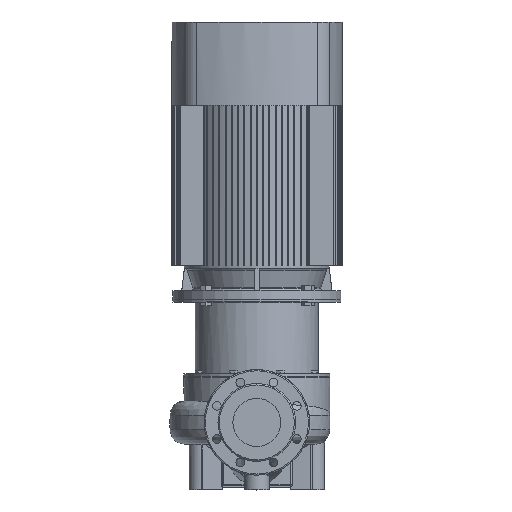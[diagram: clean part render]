
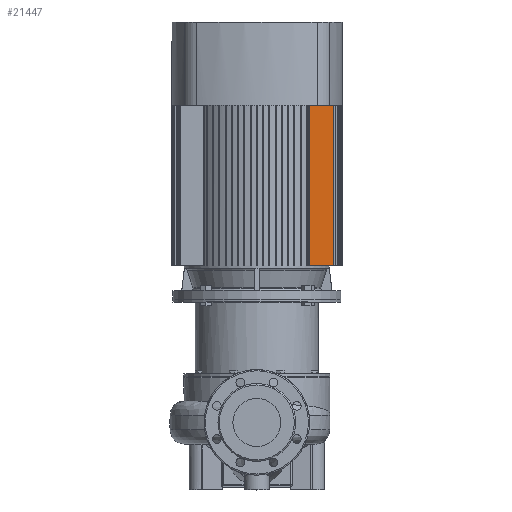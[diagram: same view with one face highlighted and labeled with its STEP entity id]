
A CAD part, top view. The second image highlights one B-rep face of the part: STEP entity #21447.
In plain terms, the highlighted planar face has unit normal (0, 0, 1) as drawn and (0, -1, 0) by its records, which use the part's own axes.
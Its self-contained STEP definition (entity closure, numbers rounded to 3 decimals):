
#195 = CARTESIAN_POINT ( 'NONE',  ( -159.424, -105., -180. ) ) ;
#2109 = VERTEX_POINT ( 'NONE', #4295 ) ;
#4295 = CARTESIAN_POINT ( 'NONE',  ( -108.517, -105., -514. ) ) ;
#4811 = AXIS2_PLACEMENT_3D ( 'NONE', #17295, #24686, #18214 ) ;
#5441 = VERTEX_POINT ( 'NONE', #195 ) ;
#5966 = CARTESIAN_POINT ( 'NONE',  ( -177.5, -105., -180. ) ) ;
#6002 = PLANE ( 'NONE',  #4811 ) ;
#6129 = ORIENTED_EDGE ( 'NONE', *, *, #12805, .F. ) ;
#7295 = VECTOR ( 'NONE', #9006, 1000. ) ;
#7339 = CARTESIAN_POINT ( 'NONE',  ( -108.517, -105., 28.255 ) ) ;
#7577 = VECTOR ( 'NONE', #26040, 1000. ) ;
#7734 = EDGE_CURVE ( 'NONE', #22515, #2109, #23945, .T. ) ;
#9006 = DIRECTION ( 'NONE',  ( 0., 0., -1. ) ) ;
#12805 = EDGE_CURVE ( 'NONE', #2109, #21881, #30502, .T. ) ;
#13135 = CARTESIAN_POINT ( 'NONE',  ( -177.5, -105., -514. ) ) ;
#13961 = ORIENTED_EDGE ( 'NONE', *, *, #21662, .F. ) ;
#14533 = CARTESIAN_POINT ( 'NONE',  ( -108.517, -105., -180. ) ) ;
#15438 = DIRECTION ( 'NONE',  ( 1., 0., 0. ) ) ;
#17295 = CARTESIAN_POINT ( 'NONE',  ( 0., -105., 0. ) ) ;
#18120 = DIRECTION ( 'NONE',  ( -1., 0., 0. ) ) ;
#18177 = VECTOR ( 'NONE', #18120, 1000. ) ;
#18214 = DIRECTION ( 'NONE',  ( 0., 0., 1. ) ) ;
#20724 = VECTOR ( 'NONE', #15438, 1000. ) ;
#21447 = ADVANCED_FACE ( 'NONE', ( #30746 ), #6002, .F. ) ;
#21662 = EDGE_CURVE ( 'NONE', #5441, #22515, #29910, .T. ) ;
#21674 = LINE ( 'NONE', #23943, #7577 ) ;
#21881 = VERTEX_POINT ( 'NONE', #28462 ) ;
#22515 = VERTEX_POINT ( 'NONE', #14533 ) ;
#22836 = ORIENTED_EDGE ( 'NONE', *, *, #30785, .F. ) ;
#23560 = EDGE_LOOP ( 'NONE', ( #22836, #6129, #24937, #13961 ) ) ;
#23943 = CARTESIAN_POINT ( 'NONE',  ( -159.424, -105., 507.066 ) ) ;
#23945 = LINE ( 'NONE', #7339, #7295 ) ;
#24686 = DIRECTION ( 'NONE',  ( 0., 1., 0. ) ) ;
#24937 = ORIENTED_EDGE ( 'NONE', *, *, #7734, .F. ) ;
#26040 = DIRECTION ( 'NONE',  ( 0., 0., 1. ) ) ;
#28462 = CARTESIAN_POINT ( 'NONE',  ( -159.424, -105., -514. ) ) ;
#29910 = LINE ( 'NONE', #5966, #20724 ) ;
#30502 = LINE ( 'NONE', #13135, #18177 ) ;
#30746 = FACE_OUTER_BOUND ( 'NONE', #23560, .T. ) ;
#30785 = EDGE_CURVE ( 'NONE', #21881, #5441, #21674, .T. ) ;
